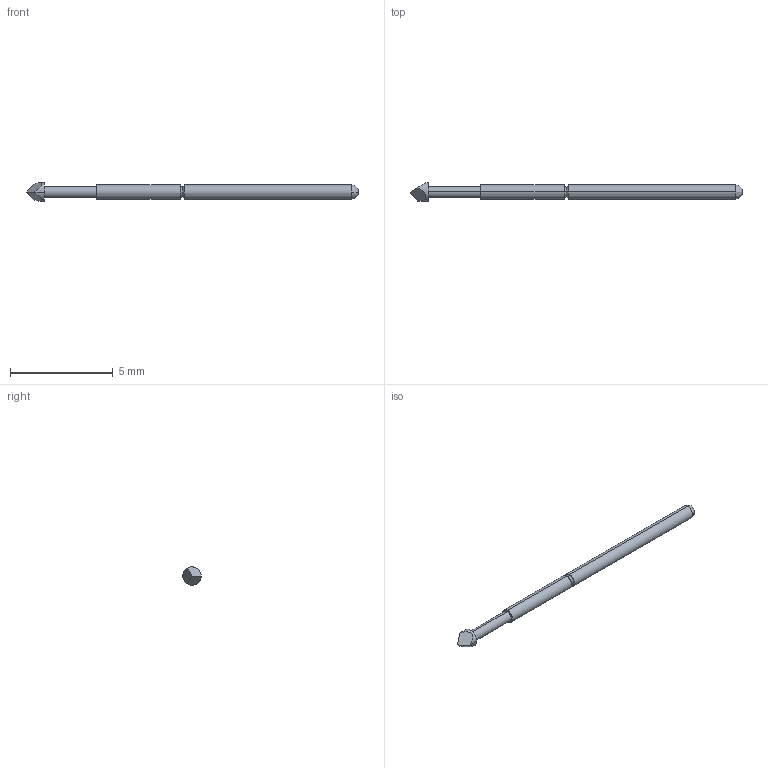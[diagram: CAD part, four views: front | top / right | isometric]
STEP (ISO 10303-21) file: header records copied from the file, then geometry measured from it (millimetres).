
FILE_DESCRIPTION (( 'STEP AP214' ), '1' );
FILE_NAME ('PA1T.STEP', '2021-08-24T13:58:35', ( '' ), ( '' ), 'SwSTEP 2.0', 'SolidWorks 2021', '' );
FILE_SCHEMA (( 'AUTOMOTIVE_DESIGN' ));
Length unit declared in the file: inch
Products named in the file (1): PA1T
Bounding box: 16.13 x 0.89 x 0.89 mm (x, y, z)
Volume: 5.5 mm3; surface area: 34.3 mm2
Topology: 1 solids, 1 shells, 20 faces, 41 edges, 25 vertices
Faces by surface type: cylinder 8, bspline 6, plane 6
Entity records: 897 total; most frequent: CARTESIAN_POINT 201, DIRECTION 85, ORIENTED_EDGE 82, EDGE_CURVE 41, AXIS2_PLACEMENT_3D 37, VERTEX_POINT 25, LENGTH_MEASURE_WITH_UNIT 23, DIMENSIONAL_EXPONENTS 23
